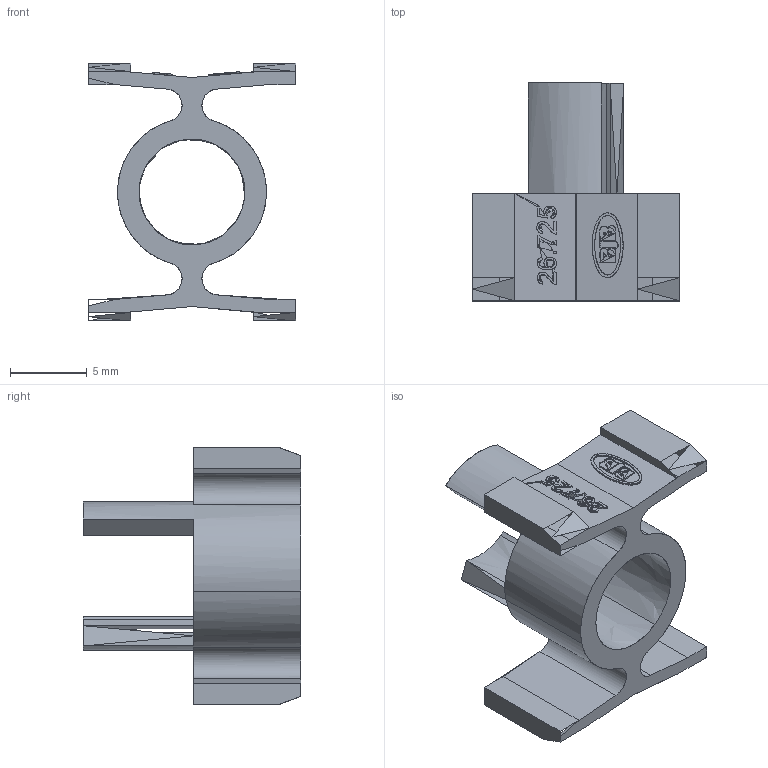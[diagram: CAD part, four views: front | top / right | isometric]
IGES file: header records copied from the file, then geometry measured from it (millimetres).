
Global section: file name: C:\Programme\core_technologie\in/004Y1BVY07.igs; native system: CT CoreTechnologie 3D Evolution; preprocessor: 2006; author: assmuth; date: 100914.114538; units: millimetre
Bounding box: 13.5 x 14.2 x 16.8 mm (x, y, z)
Surface area: 1086.2 mm2 (no closed solid volume)
Topology: 0 solids, 0 shells, 179 faces, 930 edges, 887 vertices
Faces by surface type: bspline 179
